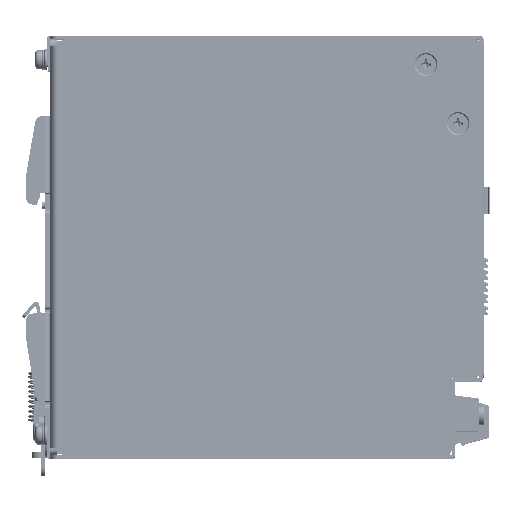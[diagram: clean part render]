
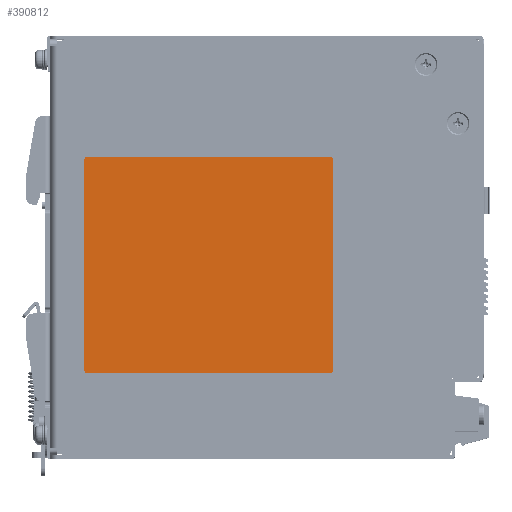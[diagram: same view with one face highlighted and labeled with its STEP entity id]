
A CAD part, top view. The second image highlights one B-rep face of the part: STEP entity #390812.
In plain terms, the highlighted planar face has unit normal (0, 0, 1) as drawn and (0, -1, 0) by its records, which use the part's own axes.
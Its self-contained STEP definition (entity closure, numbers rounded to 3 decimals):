
#390581=CARTESIAN_POINT('',(-35.5,0.,-30.75));
#390582=DIRECTION('',(0.,1.,0.));
#390583=DIRECTION('',(0.,0.,-1.));
#390584=AXIS2_PLACEMENT_3D('',#390581,#390582,#390583);
#390589=DIRECTION('',(0.,0.,1.));
#390590=VECTOR('',#390589,61.5);
#390591=CARTESIAN_POINT('',(-36.5,0.,-30.75));
#390592=LINE('',#390591,#390590);
#390596=CARTESIAN_POINT('',(-35.5,0.,30.75));
#390597=DIRECTION('',(0.,1.,0.));
#390598=DIRECTION('',(-1.,0.,0.));
#390599=AXIS2_PLACEMENT_3D('',#390596,#390597,#390598);
#390604=DIRECTION('',(1.,0.,0.));
#390605=VECTOR('',#390604,71.);
#390606=CARTESIAN_POINT('',(-35.5,0.,31.75));
#390607=LINE('',#390606,#390605);
#390611=CARTESIAN_POINT('',(35.5,0.,30.75));
#390612=DIRECTION('',(0.,1.,0.));
#390613=DIRECTION('',(0.,0.,1.));
#390614=AXIS2_PLACEMENT_3D('',#390611,#390612,#390613);
#390619=DIRECTION('',(0.,0.,-1.));
#390620=VECTOR('',#390619,61.5);
#390621=CARTESIAN_POINT('',(36.5,0.,30.75));
#390622=LINE('',#390621,#390620);
#390626=CARTESIAN_POINT('',(35.5,0.,-30.75));
#390627=DIRECTION('',(0.,1.,0.));
#390628=DIRECTION('',(1.,0.,0.));
#390629=AXIS2_PLACEMENT_3D('',#390626,#390627,#390628);
#390634=DIRECTION('',(-1.,0.,0.));
#390635=VECTOR('',#390634,71.);
#390636=CARTESIAN_POINT('',(35.5,0.,-31.75));
#390637=LINE('',#390636,#390635);
#390757=CARTESIAN_POINT('',(-35.5,0.,-31.75));
#390758=CARTESIAN_POINT('',(-36.5,0.,-30.75));
#390759=VERTEX_POINT('',#390757);
#390760=VERTEX_POINT('',#390758);
#390761=CARTESIAN_POINT('',(-36.5,0.,30.75));
#390762=VERTEX_POINT('',#390761);
#390763=CARTESIAN_POINT('',(-35.5,0.,31.75));
#390764=VERTEX_POINT('',#390763);
#390765=CARTESIAN_POINT('',(35.5,0.,31.75));
#390766=VERTEX_POINT('',#390765);
#390767=CARTESIAN_POINT('',(36.5,0.,30.75));
#390768=VERTEX_POINT('',#390767);
#390769=CARTESIAN_POINT('',(36.5,0.,-30.75));
#390770=VERTEX_POINT('',#390769);
#390771=CARTESIAN_POINT('',(35.5,0.,-31.75));
#390772=VERTEX_POINT('',#390771);
#390789=CARTESIAN_POINT('',(0.,0.,0.));
#390790=DIRECTION('',(0.,1.,0.));
#390791=DIRECTION('',(1.,0.,0.));
#390792=AXIS2_PLACEMENT_3D('',#390789,#390790,#390791);
#390793=PLANE('',#390792);
#390795=ORIENTED_EDGE('',*,*,#390794,.T.);
#390797=ORIENTED_EDGE('',*,*,#390796,.T.);
#390799=ORIENTED_EDGE('',*,*,#390798,.T.);
#390801=ORIENTED_EDGE('',*,*,#390800,.T.);
#390803=ORIENTED_EDGE('',*,*,#390802,.T.);
#390805=ORIENTED_EDGE('',*,*,#390804,.T.);
#390807=ORIENTED_EDGE('',*,*,#390806,.T.);
#390809=ORIENTED_EDGE('',*,*,#390808,.T.);
#390810=EDGE_LOOP('',(#390795,#390797,#390799,#390801,#390803,#390805,#390807,
#390809));
#390811=FACE_OUTER_BOUND('',#390810,.F.);
#390585=CIRCLE('',#390584,1.);
#390600=CIRCLE('',#390599,1.);
#390615=CIRCLE('',#390614,1.);
#390630=CIRCLE('',#390629,1.);
#390794=EDGE_CURVE('',#390759,#390760,#390585,.T.);
#390796=EDGE_CURVE('',#390760,#390762,#390592,.T.);
#390798=EDGE_CURVE('',#390762,#390764,#390600,.T.);
#390800=EDGE_CURVE('',#390764,#390766,#390607,.T.);
#390802=EDGE_CURVE('',#390766,#390768,#390615,.T.);
#390804=EDGE_CURVE('',#390768,#390770,#390622,.T.);
#390806=EDGE_CURVE('',#390770,#390772,#390630,.T.);
#390808=EDGE_CURVE('',#390772,#390759,#390637,.T.);
#390812=ADVANCED_FACE('',(#390811),#390793,.F.);
